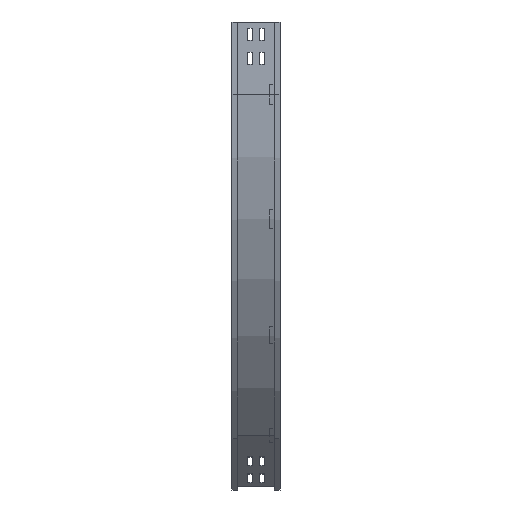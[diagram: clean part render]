
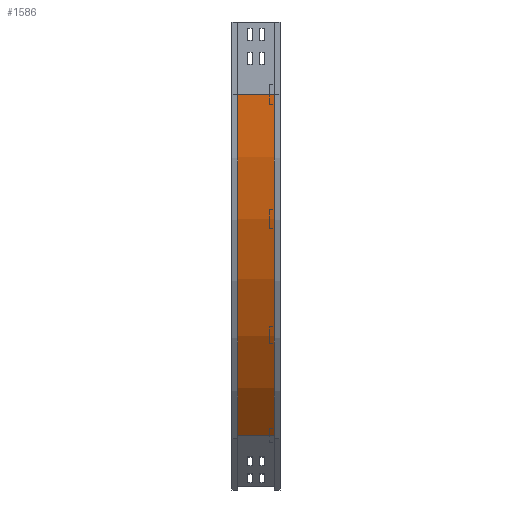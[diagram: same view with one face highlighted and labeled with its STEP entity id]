
A CAD part, left-side view. The second image highlights one B-rep face of the part: STEP entity #1586.
In plain terms, the highlighted cylindrical face has radius 1000 mm (diameter 2000 mm), a partial arc.
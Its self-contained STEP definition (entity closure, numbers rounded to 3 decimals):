
#215 = CYLINDRICAL_SURFACE ( 'NONE', #599, 1000. ) ;
#348 = ORIENTED_EDGE ( 'NONE', *, *, #2821, .F. ) ;
#455 = EDGE_CURVE ( 'NONE', #2967, #864, #3316, .T. ) ;
#471 = VECTOR ( 'NONE', #1581, 1000. ) ;
#599 = AXIS2_PLACEMENT_3D ( 'NONE', #1226, #1981, #1579 ) ;
#612 = CARTESIAN_POINT ( 'NONE',  ( 1009., 12., -150. ) ) ;
#698 = CARTESIAN_POINT ( 'NONE',  ( 301.893, 88., -857.107 ) ) ;
#728 = AXIS2_PLACEMENT_3D ( 'NONE', #612, #4414, #4082 ) ;
#804 = CIRCLE ( 'NONE', #728, 1000. ) ;
#860 = LINE ( 'NONE', #4060, #471 ) ;
#864 = VERTEX_POINT ( 'NONE', #1856 ) ;
#930 = FACE_OUTER_BOUND ( 'NONE', #3497, .T. ) ;
#1042 = DIRECTION ( 'NONE',  ( -1., 0., 0. ) ) ;
#1194 = EDGE_CURVE ( 'NONE', #4088, #864, #804, .T. ) ;
#1226 = CARTESIAN_POINT ( 'NONE',  ( 1009., 0., -150. ) ) ;
#1579 = DIRECTION ( 'NONE',  ( 0., 0., -1. ) ) ;
#1581 = DIRECTION ( 'NONE',  ( 0., -1., 0. ) ) ;
#1586 = ADVANCED_FACE ( 'NONE', ( #930 ), #215, .T. ) ;
#1763 = CARTESIAN_POINT ( 'NONE',  ( 9., 12., -150. ) ) ;
#1791 = ORIENTED_EDGE ( 'NONE', *, *, #1194, .F. ) ;
#1856 = CARTESIAN_POINT ( 'NONE',  ( 301.893, 12., -857.107 ) ) ;
#1981 = DIRECTION ( 'NONE',  ( 0., -1., 0. ) ) ;
#2371 = AXIS2_PLACEMENT_3D ( 'NONE', #3015, #3426, #1042 ) ;
#2656 = DIRECTION ( 'NONE',  ( 0., -1., 0. ) ) ;
#2681 = CARTESIAN_POINT ( 'NONE',  ( 301.893, 12., -857.107 ) ) ;
#2795 = VERTEX_POINT ( 'NONE', #3970 ) ;
#2821 = EDGE_CURVE ( 'NONE', #2795, #4088, #860, .T. ) ;
#2905 = EDGE_CURVE ( 'NONE', #2795, #2967, #4261, .T. ) ;
#2967 = VERTEX_POINT ( 'NONE', #698 ) ;
#3015 = CARTESIAN_POINT ( 'NONE',  ( 1009., 88., -150. ) ) ;
#3316 = LINE ( 'NONE', #2681, #3658 ) ;
#3426 = DIRECTION ( 'NONE',  ( 0., -1., 0. ) ) ;
#3497 = EDGE_LOOP ( 'NONE', ( #1791, #348, #4131, #4181 ) ) ;
#3658 = VECTOR ( 'NONE', #2656, 1000. ) ;
#3970 = CARTESIAN_POINT ( 'NONE',  ( 9., 88., -150. ) ) ;
#4060 = CARTESIAN_POINT ( 'NONE',  ( 9., 12., -150. ) ) ;
#4082 = DIRECTION ( 'NONE',  ( -1., 0., 0. ) ) ;
#4088 = VERTEX_POINT ( 'NONE', #1763 ) ;
#4131 = ORIENTED_EDGE ( 'NONE', *, *, #2905, .T. ) ;
#4181 = ORIENTED_EDGE ( 'NONE', *, *, #455, .T. ) ;
#4261 = CIRCLE ( 'NONE', #2371, 1000. ) ;
#4414 = DIRECTION ( 'NONE',  ( 0., -1., 0. ) ) ;
